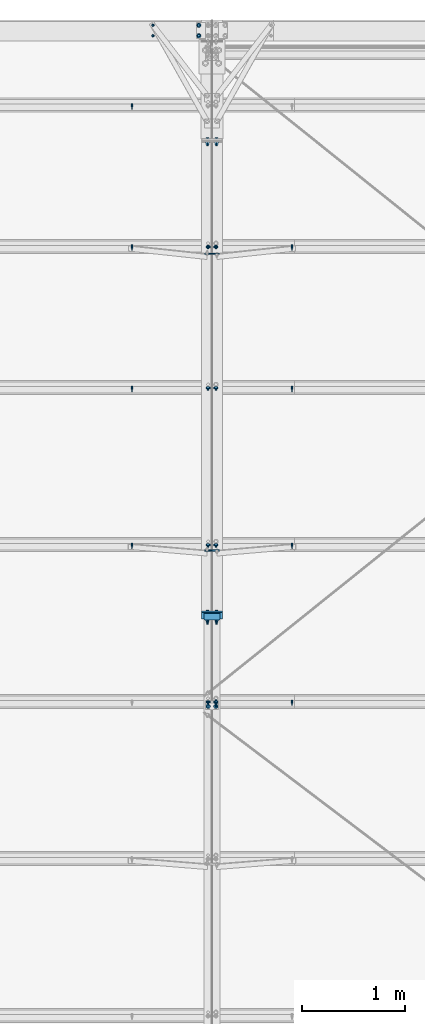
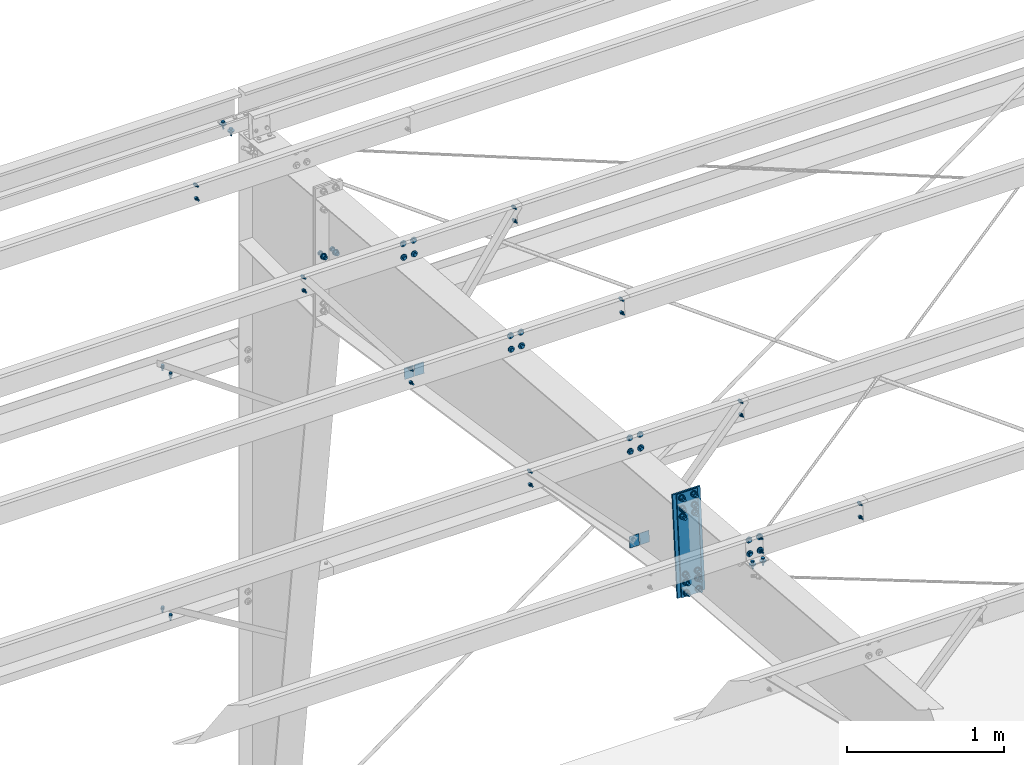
# One storey, part 98 of 185: 25 mechanical fasteners, 6 discrete accessories, 16 elements without a shape of their own.
"""IFC2X3 building model written with IfcOpenShell, lengths in millimetres."""

from ifc_helpers import new_model, si_unit, frame, origin_with_axes, origin_2d_with_axis, place, context, subcontext, project, spatial, polyline, rectangle, circle, outline, extrude, source, transform, mapped, material, type_object, element, aggregate, save


model = new_model("IFC2X3")

# Units and contexts
model_context = context("Model", 3, precision=1e-05, world=origin_with_axes())
body_context = subcontext(model_context, "Body", "Model", "MODEL_VIEW")
ifc_project = project(units=[si_unit("LENGTHUNIT", "METRE", prefix="MILLI"), si_unit("AREAUNIT", "SQUARE_METRE"), si_unit("VOLUMEUNIT", "CUBIC_METRE"), si_unit("MASSUNIT", "GRAM", prefix="KILO"), si_unit("TIMEUNIT", "SECOND"), si_unit("PLANEANGLEUNIT", "RADIAN"), si_unit("SOLIDANGLEUNIT", "STERADIAN"), si_unit("THERMODYNAMICTEMPERATUREUNIT", "DEGREE_CELSIUS"), si_unit("LUMINOUSINTENSITYUNIT", "LUMEN")], contexts=[model_context])

# Site, building, storey
site_placement = place(None, origin_with_axes())
site = spatial("IfcSite", under=ifc_project, at=site_placement, Name="Undefined", CompositionType="ELEMENT")
building_placement = place(site_placement, origin_with_axes())
building = spatial("IfcBuilding", under=site, at=building_placement, Name="Undefined", CompositionType="ELEMENT")
storey_placement = place(building_placement, origin_with_axes())
storey = spatial("IfcBuildingStorey", under=building, at=storey_placement, Name="Undefined", CompositionType="ELEMENT", Elevation=0.0)

# Assembly, mechanical fastener
assembly_1_placement = place(storey_placement, origin_with_axes())
assembly_1 = element("IfcElementAssembly", 1, at=assembly_1_placement, inside=storey, Name="Steel Assembly", AssemblyPlace="NOTDEFINED", PredefinedType="RIGID_FRAME")
ifc_material_1 = material(Name="Undefined")
discrete_accessory_type_1 = type_object("IfcDiscreteAccessoryType", Name="Bolt assembly")
shared_shape_1 = source(origin_with_axes(), body_context, "Body", "SweptSolid", [
    extrude(circle(Radius=7.14374971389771, at=origin_2d_with_axis()), frame((0.0, -1.59000001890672, 0.0), z_axis=(0.0, 1.0, 0.0), x_axis=(1.0, 0.0, 0.0)), (0.0, 0.0, 1.0), 3.3),
    extrude(circle(Radius=13.4937496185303, at=origin_2d_with_axis()), frame((0.0, -5.5587500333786, 0.0), z_axis=(0.0, 1.0, 0.0), x_axis=(1.0, 0.0, 0.0)), (0.0, 0.0, 1.0), 4.0),
    extrude(circle(Radius=22.2250003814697, at=origin_2d_with_axis()), frame((0.0, 1.5900000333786, 0.0), z_axis=(0.0, 1.0, 0.0), x_axis=(1.0, 0.0, 0.0)), (0.0, 0.0, 1.0), 7.9),
    extrude(outline(polyline([(12.8316099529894, 0.0), (6.4158049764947, 11.1125001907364), (-6.4158049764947, 11.1125001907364), (-12.8316099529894, 0.0), (-6.4158049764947, -11.1125001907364), (6.4158049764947, -11.1125001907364), (12.8316099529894, 0.0)])), frame((0.0, 9.5275000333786, 0.0), z_axis=(0.0, 1.0, 0.0), x_axis=(1.0, 0.0, 0.0)), (0.0, 0.0, 1.0), 12.3),
])
mechanical_fastener_1_placement = place(assembly_1_placement, frame((30060.9, 29818.2760586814, 6227.1675784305), z_axis=(-1.0, 0.0, 0.0), x_axis=(0.0, -0.0830454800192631, -0.996545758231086)))
mechanical_fastener_1 = element("IfcMechanicalFastener", 2, at=mechanical_fastener_1_placement, type_object=discrete_accessory_type_1, material=ifc_material_1, Name="Bolt assembly", NominalDiameter=12.6999998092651, NominalLength=38.0999984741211, context=body_context, shape_type="MappedRepresentation", body=[
    mapped(shared_shape_1, transform((0.0, 0.0, 0.0))),
    mapped(shared_shape_1, transform((101.599998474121, 0.0, 0.0))),
])
aggregate(assembly_1, [mechanical_fastener_1])

assembly_2_placement = place(storey_placement, origin_with_axes())
assembly_2 = element("IfcElementAssembly", 3, at=assembly_2_placement, inside=storey, Name="Steel Assembly", AssemblyPlace="NOTDEFINED", PredefinedType="RIGID_FRAME")
mechanical_fastener_2_placement = place(assembly_2_placement, frame((30137.1, 29818.2760586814, 6227.1675784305), z_axis=(-1.0, 0.0, 0.0), x_axis=(0.0, -0.0830454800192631, -0.996545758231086)))
mechanical_fastener_2 = element("IfcMechanicalFastener", 4, at=mechanical_fastener_2_placement, type_object=discrete_accessory_type_1, material=ifc_material_1, Name="Bolt assembly", NominalDiameter=12.6999998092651, NominalLength=38.0999984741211, context=body_context, shape_type="MappedRepresentation", body=[
    mapped(shared_shape_1, transform((0.0, 0.0, 0.0))),
    mapped(shared_shape_1, transform((101.599998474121, 0.0, 0.0))),
])

assembly_3_placement = place(storey_placement, origin_with_axes())
assembly_3 = element("IfcElementAssembly", 5, at=assembly_3_placement, inside=storey, Name="Steel Assembly", AssemblyPlace="NOTDEFINED", PredefinedType="RIGID_FRAME")
mechanical_fastener_3_placement = place(assembly_3_placement, frame((30060.9, 28451.4138966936, 6341.07275883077), z_axis=(-1.0, 0.0, 0.0), x_axis=(0.0, -0.0830454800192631, -0.996545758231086)))
mechanical_fastener_3 = element("IfcMechanicalFastener", 6, at=mechanical_fastener_3_placement, type_object=discrete_accessory_type_1, material=ifc_material_1, Name="Bolt assembly", NominalDiameter=12.6999998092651, NominalLength=38.0999984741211, context=body_context, shape_type="MappedRepresentation", body=[
    mapped(shared_shape_1, transform((0.0, 0.0, 0.0))),
    mapped(shared_shape_1, transform((101.599998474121, 0.0, 0.0))),
])
aggregate(assembly_3, [mechanical_fastener_3])

assembly_4_placement = place(storey_placement, origin_with_axes())
assembly_4 = element("IfcElementAssembly", 7, at=assembly_4_placement, inside=storey, Name="Steel Assembly", AssemblyPlace="NOTDEFINED", PredefinedType="RIGID_FRAME")
mechanical_fastener_4_placement = place(assembly_4_placement, frame((30137.1, 28451.4138966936, 6341.07275883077), z_axis=(-1.0, 0.0, 0.0), x_axis=(0.0, -0.0830454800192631, -0.996545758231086)))
mechanical_fastener_4 = element("IfcMechanicalFastener", 8, at=mechanical_fastener_4_placement, type_object=discrete_accessory_type_1, material=ifc_material_1, Name="Bolt assembly", NominalDiameter=12.6999998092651, NominalLength=38.0999984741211, context=body_context, shape_type="MappedRepresentation", body=[
    mapped(shared_shape_1, transform((0.0, 0.0, 0.0))),
    mapped(shared_shape_1, transform((101.599998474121, 0.0, 0.0))),
])

assembly_5_placement = place(storey_placement, origin_with_axes())
assembly_5 = element("IfcElementAssembly", 9, at=assembly_5_placement, inside=storey, Name="Steel Assembly", AssemblyPlace="NOTDEFINED", PredefinedType="RIGID_FRAME")
mechanical_fastener_5_placement = place(assembly_5_placement, frame((30060.9, 26932.6781611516, 6467.63407038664), z_axis=(-1.0, 0.0, 0.0), x_axis=(0.0, -0.0830454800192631, -0.996545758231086)))
mechanical_fastener_5 = element("IfcMechanicalFastener", 10, at=mechanical_fastener_5_placement, type_object=discrete_accessory_type_1, material=ifc_material_1, Name="Bolt assembly", NominalDiameter=12.6999998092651, NominalLength=38.0999984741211, context=body_context, shape_type="MappedRepresentation", body=[
    mapped(shared_shape_1, transform((0.0, 0.0, 0.0))),
    mapped(shared_shape_1, transform((101.599998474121, 0.0, 0.0))),
])
aggregate(assembly_5, [mechanical_fastener_5])

assembly_6_placement = place(storey_placement, origin_with_axes())
assembly_6 = element("IfcElementAssembly", 11, at=assembly_6_placement, inside=storey, Name="Steel Assembly", AssemblyPlace="NOTDEFINED", PredefinedType="RIGID_FRAME")
mechanical_fastener_6_placement = place(assembly_6_placement, frame((30137.1, 26932.6781611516, 6467.63407038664), z_axis=(-1.0, 0.0, 0.0), x_axis=(0.0, -0.0830454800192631, -0.996545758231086)))
mechanical_fastener_6 = element("IfcMechanicalFastener", 12, at=mechanical_fastener_6_placement, type_object=discrete_accessory_type_1, material=ifc_material_1, Name="Bolt assembly", NominalDiameter=12.6999998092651, NominalLength=38.0999984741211, context=body_context, shape_type="MappedRepresentation", body=[
    mapped(shared_shape_1, transform((0.0, 0.0, 0.0))),
    mapped(shared_shape_1, transform((101.599998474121, 0.0, 0.0))),
])

assembly_7_placement = place(storey_placement, origin_with_axes())
assembly_7 = element("IfcElementAssembly", 13, at=assembly_7_placement, inside=storey, Name="Steel Assembly", AssemblyPlace="NOTDEFINED", PredefinedType="RIGID_FRAME")
mechanical_fastener_7_placement = place(assembly_7_placement, frame((30060.9, 25413.9424255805, 6594.19538193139), z_axis=(-1.0, 0.0, 0.0), x_axis=(0.0, -0.0830454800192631, -0.996545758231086)))
mechanical_fastener_7 = element("IfcMechanicalFastener", 14, at=mechanical_fastener_7_placement, type_object=discrete_accessory_type_1, material=ifc_material_1, Name="Bolt assembly", NominalDiameter=12.6999998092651, NominalLength=38.0999984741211, context=body_context, shape_type="MappedRepresentation", body=[
    mapped(shared_shape_1, transform((0.0, 0.0, 0.0))),
    mapped(shared_shape_1, transform((101.599998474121, 0.0, 0.0))),
])
aggregate(assembly_7, [mechanical_fastener_7])

assembly_8_placement = place(storey_placement, origin_with_axes())
assembly_8 = element("IfcElementAssembly", 15, at=assembly_8_placement, inside=storey, Name="Steel Assembly", AssemblyPlace="NOTDEFINED", PredefinedType="RIGID_FRAME")
mechanical_fastener_8_placement = place(assembly_8_placement, frame((30137.1, 25413.9424256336, 6594.19538269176), z_axis=(-1.0, 0.0, 0.0), x_axis=(0.0, -0.0830454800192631, -0.996545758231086)))
mechanical_fastener_8 = element("IfcMechanicalFastener", 16, at=mechanical_fastener_8_placement, type_object=discrete_accessory_type_1, material=ifc_material_1, Name="Bolt assembly", NominalDiameter=12.6999998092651, NominalLength=38.0999984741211, context=body_context, shape_type="MappedRepresentation", body=[
    mapped(shared_shape_1, transform((0.0, 0.0, 0.0))),
    mapped(shared_shape_1, transform((101.599998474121, 0.0, 0.0))),
])

# Assembly, discrete accessories
assembly_9_placement = place(storey_placement, origin_with_axes())
assembly_9 = element("IfcElementAssembly", 17, at=assembly_9_placement, inside=storey, Name="Steel Assembly", AssemblyPlace="NOTDEFINED", PredefinedType="RIGID_FRAME")
ifc_material_2 = material(Name="STEEL/55")
discrete_accessory_type_2 = type_object("IfcDiscreteAccessoryType", Name="FLANGE BRACE FLIP")
discrete_accessory_1_placement = place(assembly_9_placement, frame((30096.619, 26870.4225230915, 5699.99936980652), z_axis=(0.0, 0.0830454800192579, 0.996545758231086), x_axis=(-1.0, 0.0, 0.0)))
discrete_accessory_1 = element("IfcDiscreteAccessory", 18, at=discrete_accessory_1_placement, type_object=discrete_accessory_type_2, material=ifc_material_2, Name="FLANGE BRACE FLIP", ObjectType="PL1/8\"X2 3/4\"", context=body_context, shape_type="SweptSolid", body=[
    extrude(rectangle(XDim=3.416, YDim=85.725, at=origin_2d_with_axis()), frame((69.8499999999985, 0.0, 0.0), z_axis=(-1.0, 0.0, 0.0), x_axis=(0.0, -1.0, 0.0)), (0.0, 0.0, 1.0), 69.8),
])
discrete_accessory_2_placement = place(assembly_9_placement, frame((30101.381, 26870.4225230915, 5699.99936980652), z_axis=(0.0, 0.0830454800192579, 0.996545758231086), x_axis=(1.0, 0.0, 0.0)))
discrete_accessory_2 = element("IfcDiscreteAccessory", 19, at=discrete_accessory_2_placement, type_object=discrete_accessory_type_2, material=ifc_material_2, Name="FLANGE BRACE FLIP", ObjectType="PL1/8\"X2 3/4\"", context=body_context, shape_type="SweptSolid", body=[
    extrude(rectangle(XDim=3.416, YDim=85.725, at=origin_2d_with_axis()), frame((69.8499999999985, 0.0, 0.0), z_axis=(-1.0, 0.0, 0.0), x_axis=(0.0, -1.0, 0.0)), (0.0, 0.0, 1.0), 69.8),
])
discrete_accessory_3_placement = place(assembly_9_placement, frame((30096.619, 29740.2521226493, 5270.31330232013), z_axis=(0.0, 0.0830454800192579, 0.996545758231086), x_axis=(-1.0, 0.0, 0.0)))
discrete_accessory_3 = element("IfcDiscreteAccessory", 20, at=discrete_accessory_3_placement, type_object=discrete_accessory_type_2, material=ifc_material_2, Name="FLANGE BRACE FLIP", ObjectType="PL1/8\"X2 3/4\"", context=body_context, shape_type="SweptSolid", body=[
    extrude(rectangle(XDim=3.416, YDim=85.725, at=origin_2d_with_axis()), frame((69.8499999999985, 0.0, 0.0), z_axis=(-1.0, 0.0, 0.0), x_axis=(0.0, -1.0, 0.0)), (0.0, 0.0, 1.0), 69.8),
])
discrete_accessory_4_placement = place(assembly_9_placement, frame((30101.381, 29740.2521226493, 5270.31330232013), z_axis=(0.0, 0.0830454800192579, 0.996545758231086), x_axis=(1.0, 0.0, 0.0)))
discrete_accessory_4 = element("IfcDiscreteAccessory", 21, at=discrete_accessory_4_placement, type_object=discrete_accessory_type_2, material=ifc_material_2, Name="FLANGE BRACE FLIP", ObjectType="PL1/8\"X2 3/4\"", context=body_context, shape_type="SweptSolid", body=[
    extrude(rectangle(XDim=3.416, YDim=85.725, at=origin_2d_with_axis()), frame((69.8499999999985, 0.0, 0.0), z_axis=(-1.0, 0.0, 0.0), x_axis=(0.0, -1.0, 0.0)), (0.0, 0.0, 1.0), 69.8),
])

# Assembly, mechanical fastener
assembly_10_placement = place(storey_placement, origin_with_axes())
assembly_10 = element("IfcElementAssembly", 22, at=assembly_10_placement, inside=storey, Name="Steel Assembly", AssemblyPlace="NOTDEFINED", PredefinedType="RIGID_FRAME")
shared_shape_2 = source(origin_with_axes(), body_context, "Body", "SweptSolid", [
    extrude(circle(Radius=7.14374971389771, at=origin_2d_with_axis()), frame((0.0, -4.65999985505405, 0.0), z_axis=(0.0, 1.0, 0.0), x_axis=(1.0, 0.0, 0.0)), (0.0, 0.0, 1.0), 4.8),
    extrude(circle(Radius=7.14374971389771, at=origin_2d_with_axis()), frame((0.0, -0.0238014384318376, 0.0), z_axis=(0.0, 1.0, 0.0), x_axis=(1.0, 0.0, 0.0)), (0.0, 0.0, 1.0), 8.0),
    extrude(outline(polyline([(12.8316099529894, 0.0), (6.4158049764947, 11.1125001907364), (-6.4158049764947, 11.1125001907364), (-12.8316099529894, 0.0), (-6.4158049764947, -11.1125001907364), (6.4158049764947, -11.1125001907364), (12.8316099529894, 0.0)])), frame((0.0, -12.697499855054, 0.0), z_axis=(0.0, 1.0, 0.0), x_axis=(1.0, 0.0, 0.0)), (0.0, 0.0, 1.0), 7.9),
    extrude(circle(Radius=6.34999990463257, at=origin_2d_with_axis()), frame((0.0, -4.75999985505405, 0.0), z_axis=(0.0, 1.0, 0.0), x_axis=(1.0, 0.0, 0.0)), (0.0, 0.0, 1.0), 50.8),
    extrude(circle(Radius=22.2250003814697, at=origin_2d_with_axis()), frame((0.0, 7.95019856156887, 0.0), z_axis=(0.0, 1.0, 0.0), x_axis=(1.0, 0.0, 0.0)), (0.0, 0.0, 1.0), 7.9),
    extrude(outline(polyline([(12.8316099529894, 0.0), (6.4158049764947, 11.1125001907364), (-6.4158049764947, 11.1125001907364), (-12.8316099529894, 0.0), (-6.4158049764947, -11.1125001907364), (6.4158049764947, -11.1125001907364), (12.8316099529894, 0.0)])), frame((0.0, 15.8876985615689, 0.0), z_axis=(0.0, 1.0, 0.0), x_axis=(1.0, 0.0, 0.0)), (0.0, 0.0, 1.0), 12.3),
])
mechanical_fastener_9_placement = place(assembly_10_placement, frame((30099.0, 25363.317901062, 6445.48584115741), z_axis=(1.0, 0.0, 0.0), x_axis=(0.0, -0.996545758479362, 0.0830454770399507)))
mechanical_fastener_9 = element("IfcMechanicalFastener", 23, at=mechanical_fastener_9_placement, type_object=discrete_accessory_type_1, material=ifc_material_1, Name="Bolt assembly", NominalDiameter=12.6999998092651, NominalLength=50.7999992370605, context=body_context, shape_type="MappedRepresentation", body=[
    mapped(shared_shape_2, transform((0.0, 0.0, -38.0999984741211))),
    mapped(shared_shape_2, transform((0.0, 0.0, 38.0999984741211))),
])

# Assembly, mechanical fasteners
assembly_11_placement = place(storey_placement, origin_with_axes())
assembly_11 = element("IfcElementAssembly", 24, at=assembly_11_placement, inside=storey, Name="Steel Assembly", AssemblyPlace="NOTDEFINED", PredefinedType="RIGID_FRAME")
shared_shape_3 = source(origin_with_axes(), body_context, "Body", "SweptSolid", [
    extrude(circle(Radius=7.14374971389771, at=origin_2d_with_axis()), frame((0.0, 0.0, 0.0), z_axis=(0.0, 1.0, 0.0), x_axis=(1.0, 0.0, 0.0)), (0.0, 0.0, 1.0), 4.9),
    extrude(outline(polyline([(12.8316099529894, 0.0), (6.4158049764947, 11.1125001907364), (-6.4158049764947, 11.1125001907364), (-12.8316099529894, 0.0), (-6.4158049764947, -11.1125001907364), (6.4158049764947, -11.1125001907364), (12.8316099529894, 0.0)])), frame((0.0, 4.76000382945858, 0.0), z_axis=(0.0, 1.0, 0.0), x_axis=(1.0, 0.0, 0.0)), (0.0, 0.0, 1.0), 12.3),
])
mechanical_fastener_10_placement = place(assembly_11_placement, frame((30060.9, 25413.9424255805, 6594.19538193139), z_axis=(-1.0, 0.0, 0.0), x_axis=(0.0, -0.0830454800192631, -0.996545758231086)))
mechanical_fastener_10 = element("IfcMechanicalFastener", 25, at=mechanical_fastener_10_placement, type_object=discrete_accessory_type_1, material=ifc_material_1, Name="Bolt assembly", NominalDiameter=12.6999998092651, NominalLength=50.7999992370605, context=body_context, shape_type="MappedRepresentation", body=[
    mapped(shared_shape_3, transform((0.0, 0.0, 0.0))),
    mapped(shared_shape_3, transform((101.599998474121, 0.0, 0.0))),
])
shared_shape_4 = source(origin_with_axes(), body_context, "Body", "SweptSolid", [
    extrude(circle(Radius=7.14374971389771, at=origin_2d_with_axis()), frame((0.0, 0.0, 0.0), z_axis=(0.0, 1.0, 0.0), x_axis=(1.0, 0.0, 0.0)), (0.0, 0.0, 1.0), 4.9),
    extrude(outline(polyline([(12.8316099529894, 0.0), (6.4158049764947, 11.1125001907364), (-6.4158049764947, 11.1125001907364), (-12.8316099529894, 0.0), (-6.4158049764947, -11.1125001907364), (6.4158049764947, -11.1125001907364), (12.8316099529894, 0.0)])), frame((0.0, -11.9062498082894, 0.0), z_axis=(0.0, 1.0, 0.0), x_axis=(1.0, 0.0, 0.0)), (0.0, 0.0, 1.0), 7.9),
    extrude(circle(Radius=6.34999990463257, at=origin_2d_with_axis()), frame((0.0, -3.96874999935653, 0.0), z_axis=(0.0, 1.0, 0.0), x_axis=(1.0, 0.0, 0.0)), (0.0, 0.0, 1.0), 50.8),
    extrude(circle(Radius=13.4937496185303, at=origin_2d_with_axis()), frame((0.0, -3.96874999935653, 0.0), z_axis=(0.0, 1.0, 0.0), x_axis=(1.0, 0.0, 0.0)), (0.0, 0.0, 1.0), 4.0),
    extrude(circle(Radius=22.2250003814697, at=origin_2d_with_axis()), frame((0.0, 4.76000382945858, 0.0), z_axis=(0.0, 1.0, 0.0), x_axis=(1.0, 0.0, 0.0)), (0.0, 0.0, 1.0), 7.9),
    extrude(outline(polyline([(12.8316099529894, 0.0), (6.4158049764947, 11.1125001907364), (-6.4158049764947, 11.1125001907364), (-12.8316099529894, 0.0), (-6.4158049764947, -11.1125001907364), (6.4158049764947, -11.1125001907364), (12.8316099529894, 0.0)])), frame((0.0, 12.6975038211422, 0.0), z_axis=(0.0, 1.0, 0.0), x_axis=(1.0, 0.0, 0.0)), (0.0, 0.0, 1.0), 12.3),
])
mechanical_fastener_11_placement = place(assembly_11_placement, frame((30137.1, 25413.9424256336, 6594.19538269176), z_axis=(-1.0, 0.0, 0.0), x_axis=(0.0, -0.0830454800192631, -0.996545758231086)))
mechanical_fastener_11 = element("IfcMechanicalFastener", 26, at=mechanical_fastener_11_placement, type_object=discrete_accessory_type_1, material=ifc_material_1, Name="Bolt assembly", NominalDiameter=12.6999998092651, NominalLength=50.7999992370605, context=body_context, shape_type="MappedRepresentation", body=[
    mapped(shared_shape_4, transform((0.0, 0.0, 0.0))),
    mapped(shared_shape_4, transform((101.599998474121, 0.0, 0.0))),
])
aggregate(assembly_11, [mechanical_fastener_10, mechanical_fastener_11])

# Assembly, mechanical fastener
assembly_12_placement = place(storey_placement, origin_with_axes())
assembly_12 = element("IfcElementAssembly", 27, at=assembly_12_placement, inside=storey, Name="Steel Assembly", AssemblyPlace="NOTDEFINED", PredefinedType="RIGID_FRAME")
shared_shape_5 = source(origin_with_axes(), body_context, "Body", "SweptSolid", [
    extrude(circle(Radius=7.14374971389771, at=origin_2d_with_axis()), frame((0.0, -1.4900000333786, 0.0), z_axis=(0.0, 1.0, 0.0), x_axis=(1.0, 0.0, 0.0)), (0.0, 0.0, 1.0), 3.2),
    extrude(circle(Radius=7.14374971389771, at=origin_2d_with_axis()), frame((0.0, -1.4900000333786, 0.0), z_axis=(0.0, 1.0, 0.0), x_axis=(1.0, 0.0, 0.0)), (0.0, 0.0, 1.0), 3.2),
    extrude(outline(polyline([(10.9985221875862, 0.0), (5.4992610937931, 9.52499961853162), (-5.4992610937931, 9.52499961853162), (-10.9985221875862, 0.0), (-5.4992610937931, -9.52499961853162), (5.4992610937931, -9.52499961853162), (10.9985221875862, 0.0)])), frame((0.0, -11.1149996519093, 0.0), z_axis=(0.0, 1.0, 0.0), x_axis=(1.0, 0.0, 0.0)), (0.0, 0.0, 1.0), 9.5),
    extrude(circle(Radius=6.34999990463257, at=origin_2d_with_axis()), frame((0.0, -1.59000001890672, 0.0), z_axis=(0.0, 1.0, 0.0), x_axis=(1.0, 0.0, 0.0)), (0.0, 0.0, 1.0), 38.1),
    extrude(outline(polyline([(12.8316099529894, 0.0), (6.4158049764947, 11.1125001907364), (-6.4158049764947, 11.1125001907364), (-12.8316099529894, 0.0), (-6.4158049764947, -11.1125001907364), (6.4158049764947, -11.1125001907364), (12.8316099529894, 0.0)])), frame((0.0, 1.5900000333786, 0.0), z_axis=(0.0, 1.0, 0.0), x_axis=(1.0, 0.0, 0.0)), (0.0, 0.0, 1.0), 12.3),
])
mechanical_fastener_12_placement = place(assembly_12_placement, frame((29527.5, 31953.2, 4165.6), z_axis=(1.0, 0.0, 0.0), x_axis=(0.0, -1.0, 0.0)))
mechanical_fastener_12 = element("IfcMechanicalFastener", 28, at=mechanical_fastener_12_placement, type_object=discrete_accessory_type_1, material=ifc_material_1, Name="Bolt assembly", NominalDiameter=12.6999998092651, NominalLength=38.0999984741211, context=body_context, shape_type="MappedRepresentation", body=[
    mapped(shared_shape_5, transform((0.0, 0.0, 0.0))),
    mapped(shared_shape_5, transform((101.599998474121, 0.0, 0.0))),
])
aggregate(assembly_12, [mechanical_fastener_12])

assembly_13_placement = place(storey_placement, origin_with_axes())
assembly_13 = element("IfcElementAssembly", 29, at=assembly_13_placement, inside=storey, Name="Steel Assembly", AssemblyPlace="NOTDEFINED", PredefinedType="RIGID_FRAME")
mechanical_fastener_13_placement = place(assembly_13_placement, frame((29527.5, 31953.2, 2286.0), z_axis=(1.0, 0.0, 0.0), x_axis=(0.0, -1.0, 0.0)))
mechanical_fastener_13 = element("IfcMechanicalFastener", 30, at=mechanical_fastener_13_placement, type_object=discrete_accessory_type_1, material=ifc_material_1, Name="Bolt assembly", NominalDiameter=12.6999998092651, NominalLength=38.0999984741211, context=body_context, shape_type="MappedRepresentation", body=[
    mapped(shared_shape_5, transform((0.0, 0.0, 0.0))),
    mapped(shared_shape_5, transform((101.599998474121, 0.0, 0.0))),
])
aggregate(assembly_13, [mechanical_fastener_13])

assembly_14_placement = place(storey_placement, origin_with_axes())
assembly_14 = element("IfcElementAssembly", 31, at=assembly_14_placement, inside=storey, Name="Steel Assembly", AssemblyPlace="NOTDEFINED", PredefinedType="RIGID_FRAME")
mechanical_fastener_14_placement = place(assembly_14_placement, frame((29324.3, 31185.1382206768, 6113.2623980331), z_axis=(-1.0, 0.0, 0.0), x_axis=(0.0, -0.0830454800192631, -0.996545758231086)))
mechanical_fastener_14 = element("IfcMechanicalFastener", 32, at=mechanical_fastener_14_placement, type_object=discrete_accessory_type_1, material=ifc_material_1, Name="Bolt assembly", NominalDiameter=12.6999998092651, NominalLength=38.0999984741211, context=body_context, shape_type="MappedRepresentation", body=[
    mapped(shared_shape_5, transform((0.0, 0.0, 0.0))),
    mapped(shared_shape_5, transform((101.599998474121, 0.0, 0.0))),
])
aggregate(assembly_14, [mechanical_fastener_14])

# Mechanical fastener
mechanical_fastener_15_placement = place(assembly_2_placement, frame((29324.3, 29818.2760586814, 6227.1675784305), z_axis=(-1.0, 0.0, 0.0), x_axis=(0.0, -0.0830454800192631, -0.996545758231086)))
mechanical_fastener_15 = element("IfcMechanicalFastener", 33, at=mechanical_fastener_15_placement, type_object=discrete_accessory_type_1, material=ifc_material_1, Name="Bolt assembly", NominalDiameter=12.6999998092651, NominalLength=38.0999984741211, context=body_context, shape_type="MappedRepresentation", body=[
    mapped(shared_shape_5, transform((0.0, 0.0, 0.0))),
    mapped(shared_shape_5, transform((101.599998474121, 0.0, 0.0))),
])

mechanical_fastener_16_placement = place(assembly_2_placement, frame((30873.7, 29818.2760586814, 6227.1675784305), z_axis=(-1.0, 0.0, 0.0), x_axis=(0.0, -0.0830454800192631, -0.996545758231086)))
mechanical_fastener_16 = element("IfcMechanicalFastener", 34, at=mechanical_fastener_16_placement, type_object=discrete_accessory_type_1, material=ifc_material_1, Name="Bolt assembly", NominalDiameter=12.6999998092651, NominalLength=38.0999984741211, context=body_context, shape_type="MappedRepresentation", body=[
    mapped(shared_shape_5, transform((0.0, 0.0, 0.0))),
    mapped(shared_shape_5, transform((101.599998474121, 0.0, 0.0))),
])

aggregate(assembly_2, [mechanical_fastener_2, mechanical_fastener_15, mechanical_fastener_16])

mechanical_fastener_17_placement = place(assembly_4_placement, frame((29324.3, 28451.4138966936, 6341.07275883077), z_axis=(-1.0, 0.0, 0.0), x_axis=(0.0, -0.0830454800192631, -0.996545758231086)))
mechanical_fastener_17 = element("IfcMechanicalFastener", 35, at=mechanical_fastener_17_placement, type_object=discrete_accessory_type_1, material=ifc_material_1, Name="Bolt assembly", NominalDiameter=12.6999998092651, NominalLength=38.0999984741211, context=body_context, shape_type="MappedRepresentation", body=[
    mapped(shared_shape_5, transform((0.0, 0.0, 0.0))),
    mapped(shared_shape_5, transform((101.599998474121, 0.0, 0.0))),
])

mechanical_fastener_18_placement = place(assembly_4_placement, frame((30873.7, 28451.4138966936, 6341.07275883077), z_axis=(-1.0, 0.0, 0.0), x_axis=(0.0, -0.0830454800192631, -0.996545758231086)))
mechanical_fastener_18 = element("IfcMechanicalFastener", 36, at=mechanical_fastener_18_placement, type_object=discrete_accessory_type_1, material=ifc_material_1, Name="Bolt assembly", NominalDiameter=12.6999998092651, NominalLength=38.0999984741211, context=body_context, shape_type="MappedRepresentation", body=[
    mapped(shared_shape_5, transform((0.0, 0.0, 0.0))),
    mapped(shared_shape_5, transform((101.599998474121, 0.0, 0.0))),
])

aggregate(assembly_4, [mechanical_fastener_4, mechanical_fastener_17, mechanical_fastener_18])

mechanical_fastener_19_placement = place(assembly_6_placement, frame((29324.3, 26932.6781611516, 6467.63407038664), z_axis=(-1.0, 0.0, 0.0), x_axis=(0.0, -0.0830454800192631, -0.996545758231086)))
mechanical_fastener_19 = element("IfcMechanicalFastener", 37, at=mechanical_fastener_19_placement, type_object=discrete_accessory_type_1, material=ifc_material_1, Name="Bolt assembly", NominalDiameter=12.6999998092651, NominalLength=38.0999984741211, context=body_context, shape_type="MappedRepresentation", body=[
    mapped(shared_shape_5, transform((0.0, 0.0, 0.0))),
    mapped(shared_shape_5, transform((101.599998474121, 0.0, 0.0))),
])

mechanical_fastener_20_placement = place(assembly_6_placement, frame((30873.7, 26932.6781611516, 6467.63407038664), z_axis=(-1.0, 0.0, 0.0), x_axis=(0.0, -0.0830454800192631, -0.996545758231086)))
mechanical_fastener_20 = element("IfcMechanicalFastener", 38, at=mechanical_fastener_20_placement, type_object=discrete_accessory_type_1, material=ifc_material_1, Name="Bolt assembly", NominalDiameter=12.6999998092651, NominalLength=38.0999984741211, context=body_context, shape_type="MappedRepresentation", body=[
    mapped(shared_shape_5, transform((0.0, 0.0, 0.0))),
    mapped(shared_shape_5, transform((101.599998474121, 0.0, 0.0))),
])

aggregate(assembly_6, [mechanical_fastener_6, mechanical_fastener_19, mechanical_fastener_20])

mechanical_fastener_21_placement = place(assembly_8_placement, frame((30873.7, 25413.9424255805, 6594.19538193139), z_axis=(-1.0, 0.0, 0.0), x_axis=(0.0, -0.0830454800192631, -0.996545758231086)))
mechanical_fastener_21 = element("IfcMechanicalFastener", 39, at=mechanical_fastener_21_placement, type_object=discrete_accessory_type_1, material=ifc_material_1, Name="Bolt assembly", NominalDiameter=12.6999998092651, NominalLength=38.0999984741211, context=body_context, shape_type="MappedRepresentation", body=[
    mapped(shared_shape_5, transform((0.0, 0.0, 0.0))),
    mapped(shared_shape_5, transform((101.599998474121, 0.0, 0.0))),
])

aggregate(assembly_8, [mechanical_fastener_8, mechanical_fastener_21])

# Assembly, mechanical fastener
assembly_15_placement = place(storey_placement, origin_with_axes())
assembly_15 = element("IfcElementAssembly", 40, at=assembly_15_placement, inside=storey, Name="Steel Assembly", AssemblyPlace="NOTDEFINED", PredefinedType="RIGID_FRAME")
shared_shape_6 = source(origin_with_axes(), body_context, "Body", "SweptSolid", [
    extrude(circle(Radius=10.3187494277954, at=origin_2d_with_axis()), frame((0.0, -0.1, 0.0), z_axis=(0.0, 1.0, 0.0), x_axis=(1.0, 0.0, 0.0)), (0.0, 0.0, 1.0), 15.8),
    extrude(circle(Radius=10.3187494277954, at=origin_2d_with_axis()), frame((0.0, -15.775, 0.0), z_axis=(0.0, 1.0, 0.0), x_axis=(1.0, 0.0, 0.0)), (0.0, 0.0, 1.0), 15.9),
    extrude(outline(polyline([(18.3308710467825, 0.0), (9.16543552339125, 15.8750000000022), (-9.16543552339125, 15.8750000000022), (-18.3308710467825, 0.0), (-9.16543552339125, -15.8750000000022), (9.16543552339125, -15.8750000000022), (18.3308710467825, 0.0)])), frame((0.0, -27.78125, 0.0), z_axis=(0.0, 1.0, 0.0), x_axis=(1.0, 0.0, 0.0)), (0.0, 0.0, 1.0), 11.9),
    extrude(circle(Radius=9.52499961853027, at=origin_2d_with_axis()), frame((0.0, -15.8750000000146, 0.0), z_axis=(0.0, 1.0, 0.0), x_axis=(1.0, 0.0, 0.0)), (0.0, 0.0, 1.0), 69.8),
    extrude(circle(Radius=22.2250003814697, at=origin_2d_with_axis()), frame((0.0, 15.7480000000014, 0.0), z_axis=(0.0, 1.0, 0.0), x_axis=(1.0, 0.0, 0.0)), (0.0, 0.0, 1.0), 7.9),
    extrude(outline(polyline([(18.3308710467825, 0.0), (9.16543552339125, 15.8750000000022), (-9.16543552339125, 15.8750000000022), (-18.3308710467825, 0.0), (-9.16543552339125, -15.8750000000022), (9.16543552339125, -15.8750000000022), (18.3308710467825, 0.0)])), frame((0.0, 23.6855000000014, 0.0), z_axis=(0.0, 1.0, 0.0), x_axis=(1.0, 0.0, 0.0)), (0.0, 0.0, 1.0), 19.0),
])
mechanical_fastener_22_placement = place(assembly_15_placement, frame((30099.0, 30837.251, 5522.69198446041), z_axis=(-1.0, 0.0, 0.0), x_axis=(0.0, 0.0, -1.0)))
mechanical_fastener_22 = element("IfcMechanicalFastener", 41, at=mechanical_fastener_22_placement, type_object=discrete_accessory_type_1, material=ifc_material_1, Name="Bolt assembly", NominalDiameter=19.0499992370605, NominalLength=69.8499984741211, context=body_context, shape_type="MappedRepresentation", body=[
    mapped(shared_shape_6, transform((0.0, 0.0, -44.4500007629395))),
    mapped(shared_shape_6, transform((0.0, 0.0, 44.4500007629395))),
])
aggregate(assembly_15, [mechanical_fastener_22])

assembly_16_placement = place(storey_placement, origin_with_axes())
assembly_16 = element("IfcElementAssembly", 42, at=assembly_16_placement, inside=storey, Name="Steel Assembly", AssemblyPlace="NOTDEFINED", PredefinedType="RIGID_FRAME")
shared_shape_7 = source(origin_with_axes(), body_context, "Body", "SweptSolid", [
    extrude(circle(Radius=7.14374971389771, at=origin_2d_with_axis()), frame((0.0, -7.8375000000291, 0.0), z_axis=(0.0, 1.0, 0.0), x_axis=(1.0, 0.0, 0.0)), (0.0, 0.0, 1.0), 6.4),
    extrude(circle(Radius=7.14374971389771, at=origin_2d_with_axis()), frame((0.0, -1.68750355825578, 0.0), z_axis=(0.0, 1.0, 0.0), x_axis=(1.0, 0.0, 0.0)), (0.0, 0.0, 1.0), 1.7),
    extrude(outline(polyline([(12.8316099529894, 0.0), (6.4158049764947, 11.1125001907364), (-6.4158049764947, 11.1125001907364), (-12.8316099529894, 0.0), (-6.4158049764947, -11.1125001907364), (6.4158049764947, -11.1125001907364), (12.8316099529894, 0.0)])), frame((0.0, -15.8750000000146, 0.0), z_axis=(0.0, 1.0, 0.0), x_axis=(1.0, 0.0, 0.0)), (0.0, 0.0, 1.0), 7.9),
    extrude(circle(Radius=6.34999990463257, at=origin_2d_with_axis()), frame((0.0, -7.93749389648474, 0.0), z_axis=(0.0, 1.0, 0.0), x_axis=(1.0, 0.0, 0.0)), (0.0, 0.0, 1.0), 50.8),
    extrude(circle(Radius=22.2250003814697, at=origin_2d_with_axis()), frame((0.0, 0.0, 0.0), z_axis=(0.0, 1.0, 0.0), x_axis=(1.0, 0.0, 0.0)), (0.0, 0.0, 1.0), 7.9),
    extrude(outline(polyline([(12.8316099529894, 0.0), (6.4158049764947, 11.1125001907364), (-6.4158049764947, 11.1125001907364), (-12.8316099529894, 0.0), (-6.4158049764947, -11.1125001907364), (6.4158049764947, -11.1125001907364), (12.8316099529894, 0.0)])), frame((0.0, 7.93750000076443, 0.0), z_axis=(0.0, 1.0, 0.0), x_axis=(1.0, 0.0, 0.0)), (0.0, 0.0, 1.0), 12.3),
])
mechanical_fastener_23_placement = place(assembly_16_placement, frame((29972.0, 31953.3754762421, 5896.3143754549), z_axis=(1.0, 0.0, 0.0), x_axis=(0.0, -0.996545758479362, 0.0830454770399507)))
mechanical_fastener_23 = element("IfcMechanicalFastener", 43, at=mechanical_fastener_23_placement, type_object=discrete_accessory_type_1, material=ifc_material_1, Name="Bolt assembly", NominalDiameter=12.6999998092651, NominalLength=50.7999992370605, context=body_context, shape_type="MappedRepresentation", body=[
    mapped(shared_shape_7, transform((0.0, 0.0, 0.0))),
    mapped(shared_shape_7, transform((101.599998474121, 0.0, 0.0))),
])
aggregate(assembly_16, [mechanical_fastener_23])

# Discrete accessory
discrete_accessory_type_3 = type_object("IfcDiscreteAccessoryType", Name="Start Splice Plate")
discrete_accessory_5_placement = place(assembly_10_placement, frame((30099.0, 26267.033405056, 6441.84859146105), z_axis=(-1.0, 0.0, 0.0), x_axis=(0.0, -0.0830454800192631, -0.996545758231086)))
discrete_accessory_5 = element("IfcDiscreteAccessory", 44, at=discrete_accessory_5_placement, type_object=discrete_accessory_type_3, material=ifc_material_2, Name="Start Splice Plate", ObjectType="PL3/8\"X6\"", context=body_context, shape_type="SweptSolid", body=[
    extrude(rectangle(XDim=9.652, YDim=152.4, at=origin_2d_with_axis()), frame((768.349996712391, 0.0, 0.0), z_axis=(-1.0, 0.0, 0.0), x_axis=(0.0, -1.0, 0.0)), (0.0, 0.0, 1.0), 768.3),
])

aggregate(assembly_10, [mechanical_fastener_9, discrete_accessory_5])

discrete_accessory_type_4 = type_object("IfcDiscreteAccessoryType", Name="End Splice Plate")
discrete_accessory_6_placement = place(assembly_9_placement, frame((30099.0, 26278.1708004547, 6440.92047408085), z_axis=(-1.0, 0.0, 0.0), x_axis=(0.0, -0.0830454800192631, -0.996545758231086)))
discrete_accessory_6 = element("IfcDiscreteAccessory", 45, at=discrete_accessory_6_placement, type_object=discrete_accessory_type_4, material=ifc_material_2, Name="End Splice Plate", ObjectType="FL1/2\"X8\"", context=body_context, shape_type="SweptSolid", body=[
    extrude(rectangle(XDim=12.7, YDim=203.2, at=origin_2d_with_axis()), frame((768.349996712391, 0.0, 0.0), z_axis=(-1.0, 0.0, 0.0), x_axis=(0.0, -1.0, 0.0)), (0.0, 0.0, 1.0), 768.3),
])

# Mechanical fastener
shared_shape_8 = source(origin_with_axes(), body_context, "Body", "SweptSolid", [
    extrude(circle(Radius=10.3187494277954, at=origin_2d_with_axis()), frame((0.0, -0.1, 0.0), z_axis=(0.0, 1.0, 0.0), x_axis=(1.0, 0.0, 0.0)), (0.0, 0.0, 1.0), 9.8),
    extrude(circle(Radius=10.3187494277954, at=origin_2d_with_axis()), frame((0.0, -12.5999999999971, 0.0), z_axis=(0.0, 1.0, 0.0), x_axis=(1.0, 0.0, 0.0)), (0.0, 0.0, 1.0), 12.7),
    extrude(outline(polyline([(18.3308710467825, 0.0), (9.16543552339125, 15.8750000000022), (-9.16543552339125, 15.8750000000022), (-18.3308710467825, 0.0), (-9.16543552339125, -15.8750000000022), (9.16543552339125, -15.8750000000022), (18.3308710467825, 0.0)])), frame((0.0, -24.6062499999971, 0.0), z_axis=(0.0, 1.0, 0.0), x_axis=(1.0, 0.0, 0.0)), (0.0, 0.0, 1.0), 11.9),
    extrude(circle(Radius=9.52499961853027, at=origin_2d_with_axis()), frame((0.0, -12.6999999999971, 0.0), z_axis=(0.0, 1.0, 0.0), x_axis=(1.0, 0.0, 0.0)), (0.0, 0.0, 1.0), 69.8),
    extrude(circle(Radius=22.2250003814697, at=origin_2d_with_axis()), frame((0.0, 9.65200009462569, 0.0), z_axis=(0.0, 1.0, 0.0), x_axis=(1.0, 0.0, 0.0)), (0.0, 0.0, 1.0), 7.9),
    extrude(outline(polyline([(18.3308710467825, 0.0), (9.16543552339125, 15.8750000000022), (-9.16543552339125, 15.8750000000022), (-18.3308710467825, 0.0), (-9.16543552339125, -15.8750000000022), (9.16543552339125, -15.8750000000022), (18.3308710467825, 0.0)])), frame((0.0, 17.5895000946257, 0.0), z_axis=(0.0, 1.0, 0.0), x_axis=(1.0, 0.0, 0.0)), (0.0, 0.0, 1.0), 19.0),
])
mechanical_fastener_24_placement = place(assembly_9_placement, frame((30099.0, 26210.6714344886, 5707.39220954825), z_axis=(1.0, 0.0, 0.0), x_axis=(0.0, 0.0830454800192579, 0.996545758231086)))
mechanical_fastener_24 = element("IfcMechanicalFastener", 46, at=mechanical_fastener_24_placement, type_object=discrete_accessory_type_1, material=ifc_material_1, Name="Bolt assembly", NominalDiameter=19.0499992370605, NominalLength=69.8499984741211, context=body_context, shape_type="MappedRepresentation", body=[
    mapped(shared_shape_8, transform((0.0, 0.0, -44.4500007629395))),
    mapped(shared_shape_8, transform((79.3750000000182, 6.18456397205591e-11, -44.4500007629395))),
    mapped(shared_shape_8, transform((136.524993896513, 1.0550138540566e-10, -44.4500007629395))),
    mapped(shared_shape_8, transform((0.0, 0.0, 44.4500007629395))),
    mapped(shared_shape_8, transform((79.3750000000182, 6.18456397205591e-11, 44.4500007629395))),
    mapped(shared_shape_8, transform((136.524993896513, 1.0550138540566e-10, 44.4500007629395))),
])

mechanical_fastener_25_placement = place(assembly_9_placement, frame((30099.0, 26269.2060410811, 6409.80748723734), z_axis=(-1.0, 0.0, 0.0), x_axis=(0.0, -0.0830454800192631, -0.996545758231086)))
mechanical_fastener_25 = element("IfcMechanicalFastener", 47, at=mechanical_fastener_25_placement, type_object=discrete_accessory_type_1, material=ifc_material_1, Name="Bolt assembly", NominalDiameter=19.0499992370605, NominalLength=69.8499984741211, context=body_context, shape_type="MappedRepresentation", body=[
    mapped(shared_shape_8, transform((0.0, 0.0, -44.4500007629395))),
    mapped(shared_shape_8, transform((79.3750000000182, 6.18456397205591e-11, -44.4500007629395))),
    mapped(shared_shape_8, transform((136.524993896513, 1.0550138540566e-10, -44.4500007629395))),
    mapped(shared_shape_8, transform((0.0, 0.0, 44.4500007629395))),
    mapped(shared_shape_8, transform((79.3750000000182, 6.18456397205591e-11, 44.4500007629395))),
    mapped(shared_shape_8, transform((136.524993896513, 1.0550138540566e-10, 44.4500007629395))),
])

aggregate(assembly_9, [discrete_accessory_1, discrete_accessory_2, discrete_accessory_3, discrete_accessory_4, mechanical_fastener_24, mechanical_fastener_25, discrete_accessory_6])

save(model, "model.ifc")
